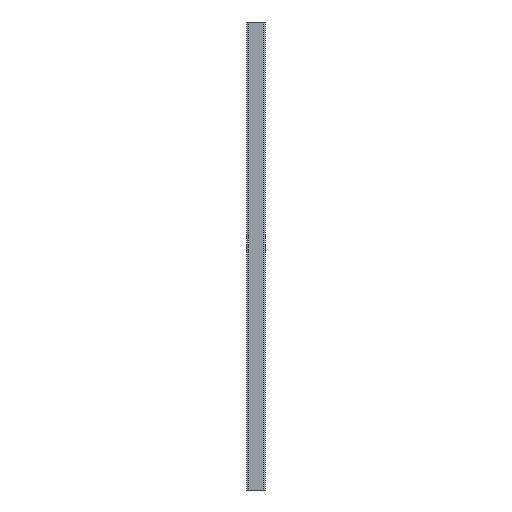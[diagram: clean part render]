
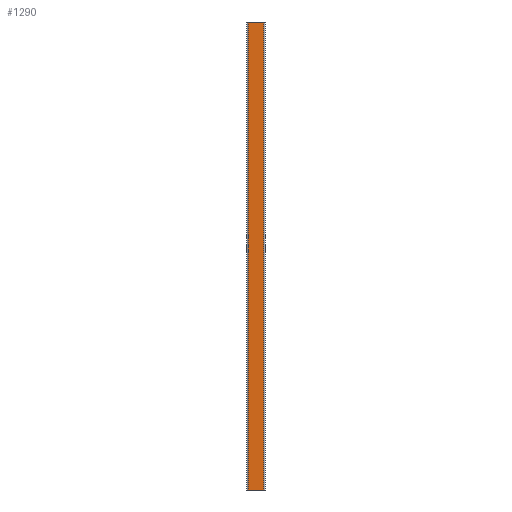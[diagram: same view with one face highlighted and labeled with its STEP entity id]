
A CAD part, front view. The second image highlights one B-rep face of the part: STEP entity #1290.
In plain terms, the highlighted planar face has unit normal (0, -1, 0).
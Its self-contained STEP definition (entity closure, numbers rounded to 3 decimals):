
#7 = CARTESIAN_POINT ( 'NONE',  ( 156.159, -41.336, 1000. ) ) ;
#43 = VERTEX_POINT ( 'NONE', #3169 ) ;
#203 = VERTEX_POINT ( 'NONE', #1694 ) ;
#212 = LINE ( 'NONE', #3408, #1064 ) ;
#289 = DIRECTION ( 'NONE',  ( 0., 0., -1. ) ) ;
#290 = VERTEX_POINT ( 'NONE', #1920 ) ;
#457 = DIRECTION ( 'NONE',  ( 1., 0., 0. ) ) ;
#843 = DIRECTION ( 'NONE',  ( 0., 1., 0. ) ) ;
#945 = EDGE_CURVE ( 'NONE', #203, #2531, #3859, .T. ) ;
#1064 = VECTOR ( 'NONE', #457, 1000. ) ;
#1120 = CARTESIAN_POINT ( 'NONE',  ( 156.159, -41.336, 0. ) ) ;
#1141 = FACE_OUTER_BOUND ( 'NONE', #1572, .T. ) ;
#1290 = ADVANCED_FACE ( 'NONE', ( #1141 ), #1496, .F. ) ;
#1482 = VECTOR ( 'NONE', #289, 1000. ) ;
#1496 = PLANE ( 'NONE',  #3501 ) ;
#1533 = LINE ( 'NONE', #4486, #4713 ) ;
#1572 = EDGE_LOOP ( 'NONE', ( #4444, #4023, #3349, #2817 ) ) ;
#1670 = VECTOR ( 'NONE', #4530, 1000. ) ;
#1694 = CARTESIAN_POINT ( 'NONE',  ( 122.159, -41.336, 0. ) ) ;
#1837 = EDGE_CURVE ( 'NONE', #43, #203, #1533, .T. ) ;
#1920 = CARTESIAN_POINT ( 'NONE',  ( 156.159, -41.336, 1000. ) ) ;
#2276 = EDGE_CURVE ( 'NONE', #290, #2531, #3458, .T. ) ;
#2531 = VERTEX_POINT ( 'NONE', #1120 ) ;
#2602 = EDGE_CURVE ( 'NONE', #43, #290, #212, .T. ) ;
#2817 = ORIENTED_EDGE ( 'NONE', *, *, #1837, .T. ) ;
#3060 = DIRECTION ( 'NONE',  ( 0., 0., 1. ) ) ;
#3169 = CARTESIAN_POINT ( 'NONE',  ( 122.159, -41.336, 1000. ) ) ;
#3349 = ORIENTED_EDGE ( 'NONE', *, *, #2602, .F. ) ;
#3408 = CARTESIAN_POINT ( 'NONE',  ( 122.159, -41.336, 1000. ) ) ;
#3458 = LINE ( 'NONE', #7, #1482 ) ;
#3501 = AXIS2_PLACEMENT_3D ( 'NONE', #4171, #843, #3060 ) ;
#3859 = LINE ( 'NONE', #4190, #1670 ) ;
#4023 = ORIENTED_EDGE ( 'NONE', *, *, #2276, .F. ) ;
#4076 = DIRECTION ( 'NONE',  ( 0., 0., -1. ) ) ;
#4171 = CARTESIAN_POINT ( 'NONE',  ( 122.159, -41.336, 1000. ) ) ;
#4190 = CARTESIAN_POINT ( 'NONE',  ( 122.159, -41.336, 0. ) ) ;
#4444 = ORIENTED_EDGE ( 'NONE', *, *, #945, .T. ) ;
#4486 = CARTESIAN_POINT ( 'NONE',  ( 122.159, -41.336, 1000. ) ) ;
#4530 = DIRECTION ( 'NONE',  ( 1., 0., 0. ) ) ;
#4713 = VECTOR ( 'NONE', #4076, 1000. ) ;
